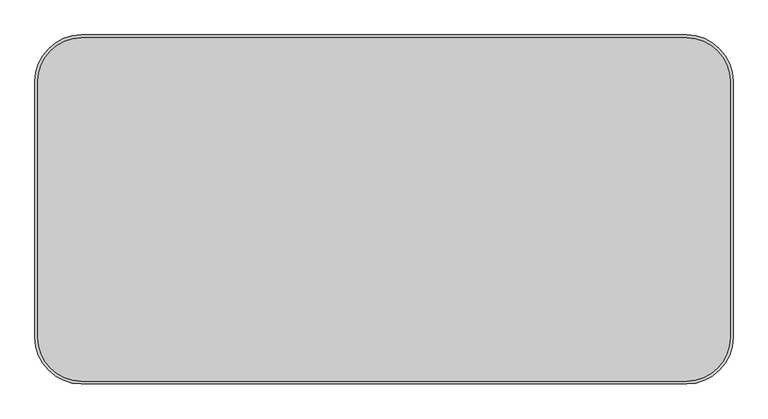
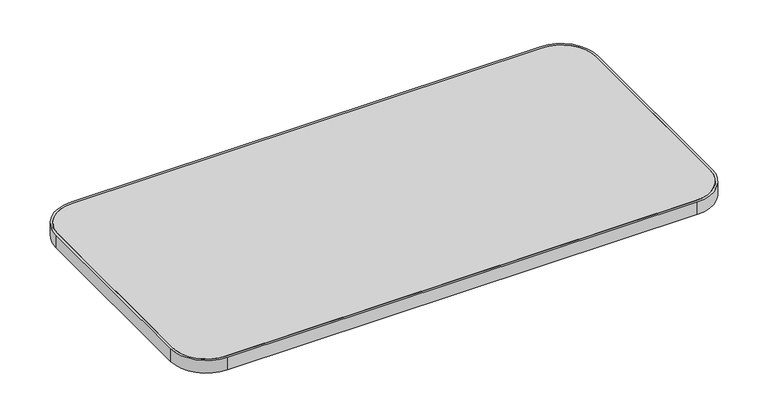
"""IFC4 building model written with IfcOpenShell, lengths in millimetres: furniture geometry, Steelcase - Answer Solution - Universal Table - Straight - 3mm Edge : 24D x 48W."""

from ifc_helpers import new_model, si_unit, point, frame, frame_2d, origin, place, context, project, spatial, polyline, circle_curve, trimmed, segment, composite_curve, outline, extrude, source, transform, mapped, element, save


def furniture_d00dbc6a(model_context):
    return source(origin(), model_context, "Body", "SweptSolid", [
        extrude(outline(composite_curve([segment(polyline([(5.08, -528.32), (5.08, -81.28)]), True, "CONTINUOUS"), segment(trimmed(circle_curve(frame_2d((81.28, -81.28)), 76.2), [point((5.08, -81.28))], [point((81.28, -5.08))], False, "CARTESIAN"), True, "CONTINUOUS"), segment(polyline([(81.28, -5.08), (1137.92, -5.08)]), True, "CONTINUOUS"), segment(trimmed(circle_curve(frame_2d((1137.92, -81.28)), 76.2), [point((1137.92, -5.08))], [point((1214.12, -81.28))], False, "CARTESIAN"), True, "CONTINUOUS"), segment(polyline([(1214.12, -81.28), (1214.12, -528.32)]), True, "CONTINUOUS"), segment(trimmed(circle_curve(frame_2d((1137.92, -528.32)), 76.2), [point((1214.12, -528.32))], [point((1137.92, -604.52))], False, "CARTESIAN"), True, "CONTINUOUS"), segment(polyline([(1137.92, -604.52), (81.28, -604.52)]), True, "CONTINUOUS"), segment(trimmed(circle_curve(frame_2d((81.28, -528.32)), 76.2), [point((81.28, -604.52))], [point((5.08, -528.32))], False, "CARTESIAN"), True, "CONTINUOUS")], self_intersect=False)), frame((0.0, 0.0, 668.274), z_axis=(0.0, 0.0, 1.0), x_axis=(1.0, 0.0, 0.0)), (0.0, 0.0, 1.0), 30.0990349),
        extrude(outline(composite_curve([segment(polyline([(81.28, 0.0), (1137.92, 0.0)]), True, "CONTINUOUS"), segment(trimmed(circle_curve(frame_2d((1137.92, -81.28)), 81.28), [point((1137.92, 0.0))], [point((1219.2, -81.28))], False, "CARTESIAN"), True, "CONTINUOUS"), segment(polyline([(1219.2, -81.28), (1219.2, -528.32)]), True, "CONTINUOUS"), segment(trimmed(circle_curve(frame_2d((1137.92, -528.32)), 81.28), [point((1219.2, -528.32))], [point((1137.92, -609.6))], False, "CARTESIAN"), True, "CONTINUOUS"), segment(polyline([(1137.92, -609.6), (81.28, -609.6)]), True, "CONTINUOUS"), segment(trimmed(circle_curve(frame_2d((81.28, -528.32)), 81.28), [point((81.28, -609.6))], [point((0.0, -528.32))], False, "CARTESIAN"), True, "CONTINUOUS"), segment(polyline([(0.0, -528.32), (0.0, -81.28)]), True, "CONTINUOUS"), segment(trimmed(circle_curve(frame_2d((81.28, -81.28)), 81.28), [point((0.0, -81.28))], [point((81.28, 0.0))], False, "CARTESIAN"), True, "CONTINUOUS")], self_intersect=False), holes=[composite_curve([segment(trimmed(circle_curve(frame_2d((81.28, -81.28)), 76.2), [point((81.28, -5.08))], [point((5.08, -81.28))], True, "CARTESIAN"), True, "CONTINUOUS"), segment(polyline([(5.08, -81.28), (5.08, -528.32)]), True, "CONTINUOUS"), segment(trimmed(circle_curve(frame_2d((81.28, -528.32)), 76.2), [point((5.08, -528.32))], [point((81.28, -604.52))], True, "CARTESIAN"), True, "CONTINUOUS"), segment(polyline([(81.28, -604.52), (1137.92, -604.52)]), True, "CONTINUOUS"), segment(trimmed(circle_curve(frame_2d((1137.92, -528.32)), 76.2), [point((1137.92, -604.52))], [point((1214.12, -528.32))], True, "CARTESIAN"), True, "CONTINUOUS"), segment(polyline([(1214.12, -528.32), (1214.12, -81.28)]), True, "CONTINUOUS"), segment(trimmed(circle_curve(frame_2d((1137.92, -81.28)), 76.2), [point((1214.12, -81.28))], [point((1137.92, -5.08))], True, "CARTESIAN"), True, "CONTINUOUS"), segment(polyline([(1137.92, -5.08), (81.28, -5.08)]), True, "CONTINUOUS")], self_intersect=False)]), frame((0.0, 0.0, 668.274), z_axis=(0.0, 0.0, 1.0), x_axis=(1.0, 0.0, 0.0)), (0.0, 0.0, 1.0), 30.0990349),
    ])


if __name__ == "__main__":
    model = new_model("IFC4")
    model_context = context("Model", 3, world=origin())
    ifc_project = project(units=[si_unit("LENGTHUNIT", "METRE", prefix="MILLI")], contexts=[model_context])
    site = spatial("IfcSite", under=ifc_project)
    building = spatial("IfcBuilding", under=site)
    placement = place(None, origin())
    furniture_shape = furniture_d00dbc6a(model_context)
    element("IfcFurniture", 1, ObjectType="Steelcase - Answer Solution - Universal Table - Straight - 3mm Edge : 24D x 48W", at=placement, inside=building, context=model_context, shape_type="MappedRepresentation", body=[
        mapped(furniture_shape, transform((0.0, 0.0, 0.0), x_axis=(1.0, 0.0, 0.0), y_axis=(0.0, 1.0, 0.0), z_axis=(0.0, 0.0, 1.0))),
    ])
    save(model, "model.ifc")
